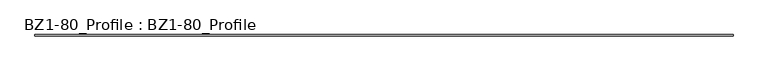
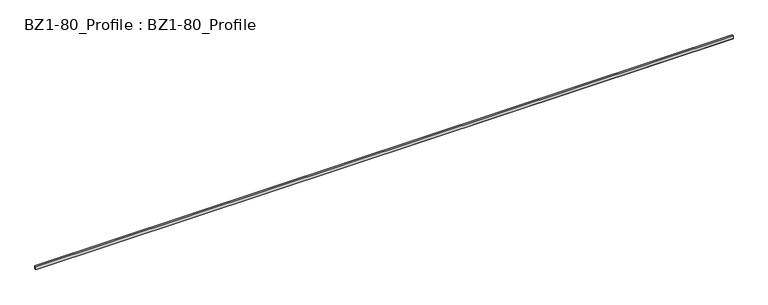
"""IFC4 building model written with IfcOpenShell, lengths in millimetres: beam geometry, BZ1-80_Profile : BZ1-80_Profile."""

import ifcopenshell
import ifcopenshell.guid

model = None  # the IFC model being written
_history = None  # IfcOwnerHistory: only IFC2X3 demands one
_inside = {}  # id of a spatial element -> (the spatial element, [elements in it])
_under = {}  # id of a project, library or spatial element -> (it, [spatial elements below it])
_declared = {}  # id of a project -> (the project, [libraries it declares])
_typed = {}  # id of a type object -> (the type object, [elements of that type])
_made_of = {}  # id of a material, layer set ... -> (it, [elements and type objects made of it])


def new_model(schema):
    """Start an empty IFC model of exactly this schema.

    Asked for "IFC4X3", IfcOpenShell would pick the latest addendum, in which some entities
    have other attributes; the version numbers below select the first issue.
    IFC2X3 requires an IfcOwnerHistory on every rooted entity: one is made here for all.
    """
    global model, _history
    if schema == "IFC4X3":
        model = ifcopenshell.file(schema_version=(4, 3, 0, 0))
    else:
        model = ifcopenshell.file(schema=schema)
    _inside.clear()
    _under.clear()
    _declared.clear()
    _typed.clear()
    _made_of.clear()
    _history = None
    if model.schema == "IFC2X3":
        org = make("IfcOrganization", Name="unknown")
        user = make(
            "IfcPersonAndOrganization",
            ThePerson=make("IfcPerson", FamilyName="unknown"),
            TheOrganization=org,
        )
        app = make(
            "IfcApplication",
            ApplicationDeveloper=org,
            Version="unknown",
            ApplicationFullName="unknown",
            ApplicationIdentifier="unknown",
        )
        _history = make(
            "IfcOwnerHistory",
            OwningUser=user,
            OwningApplication=app,
            ChangeAction="ADDED",
            CreationDate=0,
        )
    return model


def make(cls, **values):
    """One entity of the class cls with the attributes given. An attribute that is None is left unset."""
    return model.create_entity(
        cls, **{name: value for name, value in values.items() if value is not None}
    )


def rooted(cls, **values):
    """An entity with a GlobalId (a new one), such as an element, a storey or a relation."""
    return make(cls, GlobalId=ifcopenshell.guid.new(), OwnerHistory=_history, **values)


def si_unit(unit_type, name, prefix=None):
    """IfcSIUnit, for example si_unit("LENGTHUNIT", "METRE", prefix="MILLI")."""
    return make("IfcSIUnit", UnitType=unit_type, Prefix=prefix, Name=name)


def assignment(units):
    """IfcUnitAssignment: the units of a project."""
    return None if units is None else make("IfcUnitAssignment", Units=units)


def point(xyz):
    """IfcCartesianPoint."""
    return None if xyz is None else make("IfcCartesianPoint", Coordinates=xyz)


def direction(xyz):
    """IfcDirection."""
    return None if xyz is None else make("IfcDirection", DirectionRatios=xyz)


def frame(location, z_axis=None, x_axis=None):
    """IfcAxis2Placement3D, a coordinate frame: its origin and axes. An axis left out is left unset."""
    return make(
        "IfcAxis2Placement3D",
        Location=point(location),
        Axis=direction(z_axis),
        RefDirection=direction(x_axis),
    )


def origin():
    """The frame at (0, 0, 0) with its axes left unset."""
    return frame((0.0, 0.0, 0.0))


def place(relative_to, where):
    """IfcLocalPlacement: puts the frame where relative to a parent placement (None: the world)."""
    return make(
        "IfcLocalPlacement", PlacementRelTo=relative_to, RelativePlacement=where
    )


def context(
    kind, dimensions, precision=None, world=None, true_north=None, identifier=None
):
    """IfcGeometricRepresentationContext, for example the 3D "Model" context."""
    return make(
        "IfcGeometricRepresentationContext",
        ContextIdentifier=identifier,
        ContextType=kind,
        CoordinateSpaceDimension=dimensions,
        Precision=precision,
        WorldCoordinateSystem=world,
        TrueNorth=true_north,
    )


def project(units=None, contexts=None):
    """IfcProject with its units and contexts."""
    return rooted(
        "IfcProject",
        Name="project",
        RepresentationContexts=contexts,
        UnitsInContext=assignment(units),
    )


def spatial(cls, under=None, at=None, **own):
    """A site, building, storey or space (cls), placed at a placement, below another one or the project."""
    s = rooted(cls, ObjectPlacement=at, **own)
    if under is not None:
        _under.setdefault(under.id(), (under, []))[1].append(s)
    return s


def polyline(points):
    """IfcPolyline through the points."""
    return make("IfcPolyline", Points=[point(p) for p in points])


def outline(outer, holes=None, kind="AREA"):
    """IfcArbitraryClosedProfileDef: a profile drawn as a closed curve; with holes, ...WithVoids."""
    if holes is None:
        return make("IfcArbitraryClosedProfileDef", ProfileType=kind, OuterCurve=outer)
    return make(
        "IfcArbitraryProfileDefWithVoids",
        ProfileType=kind,
        OuterCurve=outer,
        InnerCurves=holes,
    )


def extrude(swept, where, along, depth):
    """IfcExtrudedAreaSolid: the profile swept, set in the frame where, extruded along a direction by depth."""
    return make(
        "IfcExtrudedAreaSolid",
        SweptArea=swept,
        Position=where,
        ExtrudedDirection=direction(along),
        Depth=depth,
    )


def shape(context_of_items, identifier, shape_type, items):
    """IfcShapeRepresentation: the items that make up one representation, for example the "Body"."""
    return make(
        "IfcShapeRepresentation",
        ContextOfItems=context_of_items,
        RepresentationIdentifier=identifier,
        RepresentationType=shape_type,
        Items=items,
    )


def source(mapping_origin, context_of_items, identifier, shape_type, items):
    """IfcRepresentationMap: a shape defined once, which mapped items show again and again."""
    return make(
        "IfcRepresentationMap",
        MappingOrigin=mapping_origin,
        MappedRepresentation=shape(context_of_items, identifier, shape_type, items),
    )


def transform(
    local_origin,
    x_axis=None,
    y_axis=None,
    z_axis=None,
    scale=None,
    scale2=None,
    scale3=None,
    uniform=True,
):
    """IfcCartesianTransformationOperator3D, or its non-uniform kind. x_axis, y_axis, z_axis: its Axis1, 2, 3."""
    if uniform:
        return make(
            "IfcCartesianTransformationOperator3D",
            Axis1=direction(x_axis),
            Axis2=direction(y_axis),
            LocalOrigin=point(local_origin),
            Scale=scale,
            Axis3=direction(z_axis),
        )
    return make(
        "IfcCartesianTransformationOperator3DnonUniform",
        Axis1=direction(x_axis),
        Axis2=direction(y_axis),
        LocalOrigin=point(local_origin),
        Scale=scale,
        Axis3=direction(z_axis),
        Scale2=scale2,
        Scale3=scale3,
    )


def mapped(mapping_source, mapping_target):
    """IfcMappedItem: shows the shape of a source again, moved by a transform."""
    return make(
        "IfcMappedItem", MappingSource=mapping_source, MappingTarget=mapping_target
    )


def made_of(thing, what):
    """Note that an element or type object is made of a material, layer set ...; save() writes the relation."""
    if what is not None:
        _made_of.setdefault(what.id(), (what, []))[1].append(thing)
    return thing


def element(
    cls,
    number,
    at=None,
    inside=None,
    cuts=None,
    type_object=None,
    material=None,
    context=None,
    identifier="Body",
    shape_type=None,
    held_by="IfcProductDefinitionShape",
    body=None,
    shapes=None,
    **own,
):
    """One element of the class cls, such as IfcWall. Its Tag is "e" and its number.

    at: its placement. inside: the storey or other place that contains it. cuts: it is an
    opening in that element (IfcRelVoidsElement). A single representation is given by context,
    identifier, shape_type and body (its items); several are given by shapes. held_by: the class
    of the entity that holds the representations. save() writes the other relations.
    """
    e = rooted(cls, Tag="e%d" % number, ObjectPlacement=at, **own)
    if body is not None:
        shapes = [shape(context, identifier, shape_type, body)]
    if shapes is not None:
        e.Representation = make(held_by, Representations=shapes)
    if inside is not None:
        _inside.setdefault(inside.id(), (inside, []))[1].append(e)
    if cuts is not None:
        rooted(
            "IfcRelVoidsElement", RelatingBuildingElement=cuts, RelatedOpeningElement=e
        )
    if type_object is not None:
        _typed.setdefault(type_object.id(), (type_object, []))[1].append(e)
    return made_of(e, material)


def aggregate(whole, parts):
    """IfcRelAggregates: a whole, such as a stair, and the parts it consists of."""
    return rooted("IfcRelAggregates", RelatingObject=whole, RelatedObjects=parts)


def save(model, path):
    """Write the relations noted so far, then the file.

    IfcRelAggregates (storeys below a building ...), IfcRelContainedInSpatialStructure (elements
    in a storey), IfcRelDefinesByType, IfcRelAssociatesMaterial and IfcRelDeclares: one each for
    every whole, place, type object, material and project.
    """
    for whole, parts in _under.values():
        aggregate(whole, parts)
    for where, things in _inside.values():
        rooted(
            "IfcRelContainedInSpatialStructure",
            RelatedElements=things,
            RelatingStructure=where,
        )
    for kind, things in _typed.values():
        rooted("IfcRelDefinesByType", RelatedObjects=things, RelatingType=kind)
    for what, things in _made_of.values():
        rooted("IfcRelAssociatesMaterial", RelatedObjects=things, RelatingMaterial=what)
    for by, libraries in _declared.values():
        rooted("IfcRelDeclares", RelatingContext=by, RelatedDefinitions=libraries)
    model.write(path)


def bz1_80_profile_bz1_80_profile_d67bf5f6(model_context):
    return source(origin(), model_context, "Body", "SweptSolid", [
        extrude(outline(polyline([(-20.0, 40.0), (20.0, 40.0), (20.0, -40.0), (-20.0, -40.0), (-20.0, 40.0)]), holes=[polyline([(-16.0, 36.0), (-16.0, -36.0), (16.0, -36.0), (16.0, 36.0), (-16.0, 36.0)])]), frame((-8921.0, 0.0, 0.0), z_axis=(1.0, 0.0, 0.0), x_axis=(0.0, 1.0, 0.0)), (0.0, 0.0, 1.0), 17842.0),
    ])


if __name__ == "__main__":
    model = new_model("IFC4")
    model_context = context("Model", 3, world=origin())
    ifc_project = project(units=[si_unit("LENGTHUNIT", "METRE", prefix="MILLI")], contexts=[model_context])
    site = spatial("IfcSite", under=ifc_project)
    building = spatial("IfcBuilding", under=site)
    placement = place(None, origin())
    bz1_80_profile_bz1_80_profile_shape = bz1_80_profile_bz1_80_profile_d67bf5f6(model_context)
    element("IfcBeam", 1, ObjectType="BZ1-80_Profile : BZ1-80_Profile", at=placement, inside=building, context=model_context, shape_type="MappedRepresentation", body=[
        mapped(bz1_80_profile_bz1_80_profile_shape, transform((0.0, 0.0, 0.0), x_axis=(1.0, 0.0, 0.0), y_axis=(0.0, 1.0, 0.0), z_axis=(0.0, 0.0, 1.0))),
    ])
    save(model, "model.ifc")
